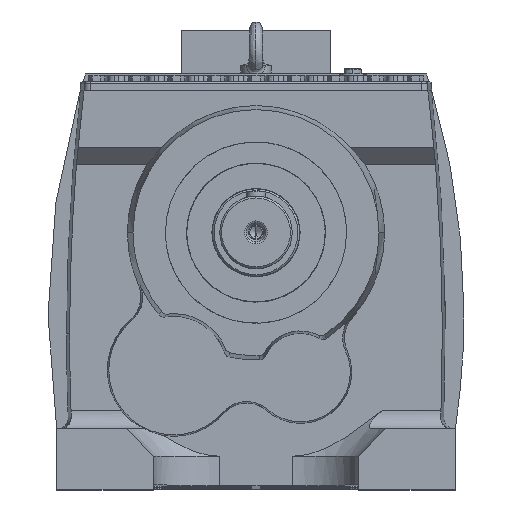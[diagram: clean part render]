
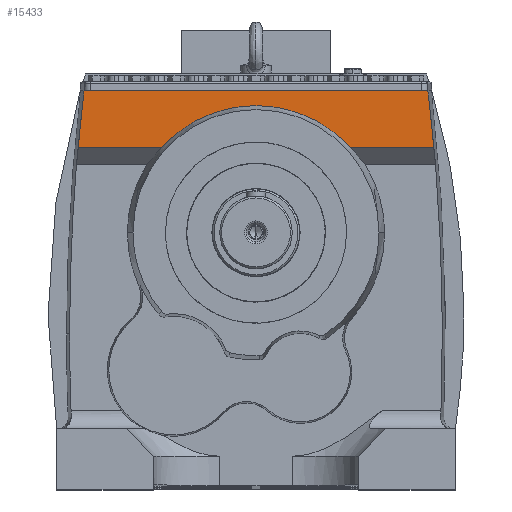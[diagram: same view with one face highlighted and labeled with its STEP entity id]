
A CAD part, top view. The second image highlights one B-rep face of the part: STEP entity #15433.
In plain terms, the highlighted planar face has unit normal (0, 0, 1).
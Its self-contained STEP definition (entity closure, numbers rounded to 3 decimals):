
#389 = AXIS2_PLACEMENT_3D ( 'NONE', #39551, #39554, #39562 ) ;
#5401 = ORIENTED_EDGE ( 'NONE', *, *, #46141, .T. ) ;
#5453 = ORIENTED_EDGE ( 'NONE', *, *, #46425, .T. ) ;
#5460 = ORIENTED_EDGE ( 'NONE', *, *, #46479, .F. ) ;
#5488 = ORIENTED_EDGE ( 'NONE', *, *, #46476, .T. ) ;
#5526 = ORIENTED_EDGE ( 'NONE', *, *, #46096, .T. ) ;
#5537 = ORIENTED_EDGE ( 'NONE', *, *, #47972, .T. ) ;
#9144 = EDGE_LOOP ( 'NONE', ( #5401, #5488, #5453, #5460, #5526, #5537 ) ) ;
#15433 = ADVANCED_FACE ( 'NONE', ( #60712 ), #78623, .T. ) ;
#21700 = VERTEX_POINT ( 'NONE', #57321 ) ;
#21704 = VERTEX_POINT ( 'NONE', #57369 ) ;
#28076 = CARTESIAN_POINT ( 'NONE',  ( -380.272, 235., 258.5 ) ) ;
#28141 = DIRECTION ( 'NONE',  ( -1., 0., 0. ) ) ;
#28165 = DIRECTION ( 'NONE',  ( 0., 0., 1. ) ) ;
#28168 = DIRECTION ( 'NONE',  ( -1., 0., 0. ) ) ;
#28171 = CARTESIAN_POINT ( 'NONE',  ( -3186.324, -167.302, 258.5 ) ) ;
#28198 = CARTESIAN_POINT ( 'NONE',  ( 3186.324, -167.302, 258.5 ) ) ;
#28200 = DIRECTION ( 'NONE',  ( -1., 0., 0. ) ) ;
#28218 = DIRECTION ( 'NONE',  ( 0., 0., -1. ) ) ;
#34821 = CARTESIAN_POINT ( 'NONE',  ( -284.613, 235., 258.5 ) ) ;
#34832 = CARTESIAN_POINT ( 'NONE',  ( 284.613, 235., 258.5 ) ) ;
#37697 = CIRCLE ( 'NONE', #389, 210.55 ) ;
#39551 = CARTESIAN_POINT ( 'NONE',  ( 0., 0., 258.5 ) ) ;
#39554 = DIRECTION ( 'NONE',  ( 0., 0., -1. ) ) ;
#39562 = DIRECTION ( 'NONE',  ( -1., 0., 0. ) ) ;
#46096 = EDGE_CURVE ( 'NONE', #21704, #51897, #55055, .T. ) ;
#46141 = EDGE_CURVE ( 'NONE', #51842, #21700, #55075, .T. ) ;
#46425 = EDGE_CURVE ( 'NONE', #83982, #83995, #55361, .T. ) ;
#46476 = EDGE_CURVE ( 'NONE', #21700, #83982, #55392, .T. ) ;
#46479 = EDGE_CURVE ( 'NONE', #21704, #83995, #55374, .T. ) ;
#47972 = EDGE_CURVE ( 'NONE', #51897, #51842, #37697, .T. ) ;
#51842 = VERTEX_POINT ( 'NONE', #59539 ) ;
#51897 = VERTEX_POINT ( 'NONE', #59667 ) ;
#55045 = VECTOR ( 'NONE', #61922, 1000. ) ;
#55055 = LINE ( 'NONE', #62005, #55045 ) ;
#55075 = LINE ( 'NONE', #62073, #55112 ) ;
#55112 = VECTOR ( 'NONE', #62091, 1000. ) ;
#55361 = LINE ( 'NONE', #28076, #55362 ) ;
#55362 = VECTOR ( 'NONE', #28141, 1000. ) ;
#55374 = CIRCLE ( 'NONE', #76209, 3494.174 ) ;
#55392 = CIRCLE ( 'NONE', #76127, 3494.174 ) ;
#57321 = CARTESIAN_POINT ( 'NONE',  ( 294.246, 140.733, 258.5 ) ) ;
#57369 = CARTESIAN_POINT ( 'NONE',  ( -294.246, 140.733, 258.5 ) ) ;
#59539 = CARTESIAN_POINT ( 'NONE',  ( 156.607, 140.733, 258.5 ) ) ;
#59667 = CARTESIAN_POINT ( 'NONE',  ( -156.607, 140.733, 258.5 ) ) ;
#60712 = FACE_OUTER_BOUND ( 'NONE', #9144, .T. ) ;
#61922 = DIRECTION ( 'NONE',  ( 1., 0., 0. ) ) ;
#62005 = CARTESIAN_POINT ( 'NONE',  ( -3186.324, 140.733, 258.5 ) ) ;
#62073 = CARTESIAN_POINT ( 'NONE',  ( -3186.324, 140.733, 258.5 ) ) ;
#62091 = DIRECTION ( 'NONE',  ( 1., 0., 0. ) ) ;
#73676 = AXIS2_PLACEMENT_3D ( 'NONE', #78637, #78624, #78629 ) ;
#76127 = AXIS2_PLACEMENT_3D ( 'NONE', #28171, #28165, #28168 ) ;
#76209 = AXIS2_PLACEMENT_3D ( 'NONE', #28198, #28218, #28200 ) ;
#78623 = PLANE ( 'NONE',  #73676 ) ;
#78624 = DIRECTION ( 'NONE',  ( 0., 0., 1. ) ) ;
#78629 = DIRECTION ( 'NONE',  ( 1., 0., 0. ) ) ;
#78637 = CARTESIAN_POINT ( 'NONE',  ( -3186.324, -167.302, 258.5 ) ) ;
#83982 = VERTEX_POINT ( 'NONE', #34832 ) ;
#83995 = VERTEX_POINT ( 'NONE', #34821 ) ;
